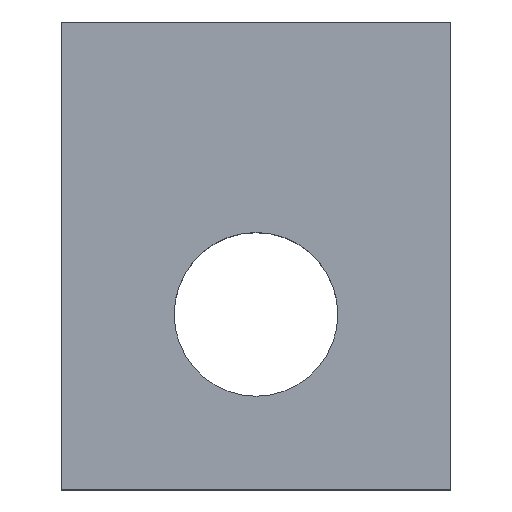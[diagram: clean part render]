
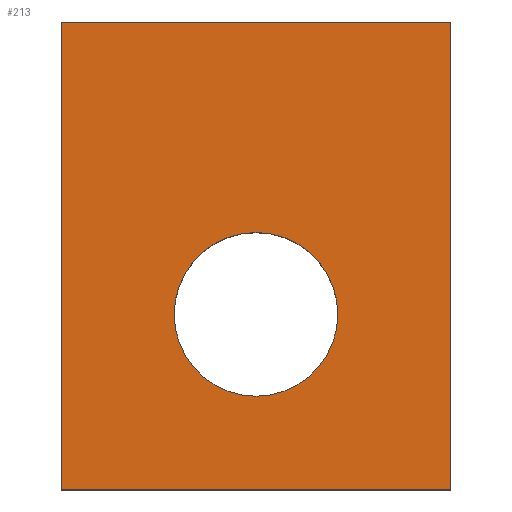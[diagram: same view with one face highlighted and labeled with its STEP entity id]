
A CAD part, top view. The second image highlights one B-rep face of the part: STEP entity #213.
In plain terms, the highlighted planar face has unit normal (0, 0, 1).
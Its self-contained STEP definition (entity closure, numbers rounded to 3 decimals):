
#24 = VERTEX_POINT('',#25);
#25 = CARTESIAN_POINT('',(-77.5,107.913,127.));
#32 = PLANE('',#33);
#33 = AXIS2_PLACEMENT_3D('',#34,#35,#36);
#34 = CARTESIAN_POINT('',(-77.5,107.913,119.));
#35 = DIRECTION('',(1.,0.,-0.));
#36 = DIRECTION('',(0.,0.,1.));
#44 = PLANE('',#45);
#45 = AXIS2_PLACEMENT_3D('',#46,#47,#48);
#46 = CARTESIAN_POINT('',(-77.5,107.913,119.));
#47 = DIRECTION('',(-0.,1.,0.));
#48 = DIRECTION('',(0.,0.,1.));
#85 = VERTEX_POINT('',#86);
#86 = CARTESIAN_POINT('',(-77.5,131.913,127.));
#100 = PLANE('',#101);
#101 = AXIS2_PLACEMENT_3D('',#102,#103,#104);
#102 = CARTESIAN_POINT('',(-77.5,131.913,119.));
#103 = DIRECTION('',(-0.,1.,0.));
#104 = DIRECTION('',(0.,0.,1.));
#112 = EDGE_CURVE('',#24,#85,#113,.T.);
#113 = SURFACE_CURVE('',#114,(#118,#125),.PCURVE_S1.);
#114 = LINE('',#115,#116);
#115 = CARTESIAN_POINT('',(-77.5,107.913,127.));
#116 = VECTOR('',#117,1.);
#117 = DIRECTION('',(-0.,1.,0.));
#118 = PCURVE('',#32,#119);
#119 = DEFINITIONAL_REPRESENTATION('',(#120),#124);
#120 = LINE('',#121,#122);
#121 = CARTESIAN_POINT('',(8.,0.));
#122 = VECTOR('',#123,1.);
#123 = DIRECTION('',(0.,-1.));
#124 = ( GEOMETRIC_REPRESENTATION_CONTEXT(2) 
PARAMETRIC_REPRESENTATION_CONTEXT() REPRESENTATION_CONTEXT('2D SPACE',''
  ) );
#125 = PCURVE('',#126,#131);
#126 = PLANE('',#127);
#127 = AXIS2_PLACEMENT_3D('',#128,#129,#130);
#128 = CARTESIAN_POINT('',(-77.5,107.913,127.));
#129 = DIRECTION('',(0.,0.,1.));
#130 = DIRECTION('',(1.,0.,-0.));
#131 = DEFINITIONAL_REPRESENTATION('',(#132),#136);
#132 = LINE('',#133,#134);
#133 = CARTESIAN_POINT('',(0.,0.));
#134 = VECTOR('',#135,1.);
#135 = DIRECTION('',(0.,1.));
#136 = ( GEOMETRIC_REPRESENTATION_CONTEXT(2) 
PARAMETRIC_REPRESENTATION_CONTEXT() REPRESENTATION_CONTEXT('2D SPACE',''
  ) );
#165 = EDGE_CURVE('',#24,#166,#168,.T.);
#166 = VERTEX_POINT('',#167);
#167 = CARTESIAN_POINT('',(-57.5,107.913,127.));
#168 = SURFACE_CURVE('',#169,(#173,#180),.PCURVE_S1.);
#169 = LINE('',#170,#171);
#170 = CARTESIAN_POINT('',(-77.5,107.913,127.));
#171 = VECTOR('',#172,1.);
#172 = DIRECTION('',(1.,0.,-0.));
#173 = PCURVE('',#44,#174);
#174 = DEFINITIONAL_REPRESENTATION('',(#175),#179);
#175 = LINE('',#176,#177);
#176 = CARTESIAN_POINT('',(8.,0.));
#177 = VECTOR('',#178,1.);
#178 = DIRECTION('',(0.,1.));
#179 = ( GEOMETRIC_REPRESENTATION_CONTEXT(2) 
PARAMETRIC_REPRESENTATION_CONTEXT() REPRESENTATION_CONTEXT('2D SPACE',''
  ) );
#180 = PCURVE('',#126,#181);
#181 = DEFINITIONAL_REPRESENTATION('',(#182),#186);
#182 = LINE('',#183,#184);
#183 = CARTESIAN_POINT('',(0.,0.));
#184 = VECTOR('',#185,1.);
#185 = DIRECTION('',(1.,0.));
#186 = ( GEOMETRIC_REPRESENTATION_CONTEXT(2) 
PARAMETRIC_REPRESENTATION_CONTEXT() REPRESENTATION_CONTEXT('2D SPACE',''
  ) );
#202 = PLANE('',#203);
#203 = AXIS2_PLACEMENT_3D('',#204,#205,#206);
#204 = CARTESIAN_POINT('',(-57.5,107.913,119.));
#205 = DIRECTION('',(1.,0.,-0.));
#206 = DIRECTION('',(0.,0.,1.));
#213 = ADVANCED_FACE('',(#214,#262),#126,.T.);
#214 = FACE_BOUND('',#215,.T.);
#215 = EDGE_LOOP('',(#216,#217,#218,#241));
#216 = ORIENTED_EDGE('',*,*,#112,.F.);
#217 = ORIENTED_EDGE('',*,*,#165,.T.);
#218 = ORIENTED_EDGE('',*,*,#219,.T.);
#219 = EDGE_CURVE('',#166,#220,#222,.T.);
#220 = VERTEX_POINT('',#221);
#221 = CARTESIAN_POINT('',(-57.5,131.913,127.));
#222 = SURFACE_CURVE('',#223,(#227,#234),.PCURVE_S1.);
#223 = LINE('',#224,#225);
#224 = CARTESIAN_POINT('',(-57.5,107.913,127.));
#225 = VECTOR('',#226,1.);
#226 = DIRECTION('',(-0.,1.,0.));
#227 = PCURVE('',#126,#228);
#228 = DEFINITIONAL_REPRESENTATION('',(#229),#233);
#229 = LINE('',#230,#231);
#230 = CARTESIAN_POINT('',(20.,0.));
#231 = VECTOR('',#232,1.);
#232 = DIRECTION('',(0.,1.));
#233 = ( GEOMETRIC_REPRESENTATION_CONTEXT(2) 
PARAMETRIC_REPRESENTATION_CONTEXT() REPRESENTATION_CONTEXT('2D SPACE',''
  ) );
#234 = PCURVE('',#202,#235);
#235 = DEFINITIONAL_REPRESENTATION('',(#236),#240);
#236 = LINE('',#237,#238);
#237 = CARTESIAN_POINT('',(8.,0.));
#238 = VECTOR('',#239,1.);
#239 = DIRECTION('',(0.,-1.));
#240 = ( GEOMETRIC_REPRESENTATION_CONTEXT(2) 
PARAMETRIC_REPRESENTATION_CONTEXT() REPRESENTATION_CONTEXT('2D SPACE',''
  ) );
#241 = ORIENTED_EDGE('',*,*,#242,.F.);
#242 = EDGE_CURVE('',#85,#220,#243,.T.);
#243 = SURFACE_CURVE('',#244,(#248,#255),.PCURVE_S1.);
#244 = LINE('',#245,#246);
#245 = CARTESIAN_POINT('',(-77.5,131.913,127.));
#246 = VECTOR('',#247,1.);
#247 = DIRECTION('',(1.,0.,-0.));
#248 = PCURVE('',#126,#249);
#249 = DEFINITIONAL_REPRESENTATION('',(#250),#254);
#250 = LINE('',#251,#252);
#251 = CARTESIAN_POINT('',(0.,24.));
#252 = VECTOR('',#253,1.);
#253 = DIRECTION('',(1.,0.));
#254 = ( GEOMETRIC_REPRESENTATION_CONTEXT(2) 
PARAMETRIC_REPRESENTATION_CONTEXT() REPRESENTATION_CONTEXT('2D SPACE',''
  ) );
#255 = PCURVE('',#100,#256);
#256 = DEFINITIONAL_REPRESENTATION('',(#257),#261);
#257 = LINE('',#258,#259);
#258 = CARTESIAN_POINT('',(8.,0.));
#259 = VECTOR('',#260,1.);
#260 = DIRECTION('',(0.,1.));
#261 = ( GEOMETRIC_REPRESENTATION_CONTEXT(2) 
PARAMETRIC_REPRESENTATION_CONTEXT() REPRESENTATION_CONTEXT('2D SPACE',''
  ) );
#262 = FACE_BOUND('',#263,.T.);
#263 = EDGE_LOOP('',(#264));
#264 = ORIENTED_EDGE('',*,*,#265,.F.);
#265 = EDGE_CURVE('',#266,#266,#268,.T.);
#266 = VERTEX_POINT('',#267);
#267 = CARTESIAN_POINT('',(-63.3,116.913,127.));
#268 = SURFACE_CURVE('',#269,(#274,#281),.PCURVE_S1.);
#269 = CIRCLE('',#270,4.2);
#270 = AXIS2_PLACEMENT_3D('',#271,#272,#273);
#271 = CARTESIAN_POINT('',(-67.5,116.913,127.));
#272 = DIRECTION('',(0.,0.,1.));
#273 = DIRECTION('',(1.,0.,-0.));
#274 = PCURVE('',#126,#275);
#275 = DEFINITIONAL_REPRESENTATION('',(#276),#280);
#276 = CIRCLE('',#277,4.2);
#277 = AXIS2_PLACEMENT_2D('',#278,#279);
#278 = CARTESIAN_POINT('',(10.,9.));
#279 = DIRECTION('',(1.,0.));
#280 = ( GEOMETRIC_REPRESENTATION_CONTEXT(2) 
PARAMETRIC_REPRESENTATION_CONTEXT() REPRESENTATION_CONTEXT('2D SPACE',''
  ) );
#281 = PCURVE('',#282,#287);
#282 = CYLINDRICAL_SURFACE('',#283,4.2);
#283 = AXIS2_PLACEMENT_3D('',#284,#285,#286);
#284 = CARTESIAN_POINT('',(-67.5,116.913,118.));
#285 = DIRECTION('',(0.,0.,1.));
#286 = DIRECTION('',(1.,0.,-0.));
#287 = DEFINITIONAL_REPRESENTATION('',(#288),#292);
#288 = LINE('',#289,#290);
#289 = CARTESIAN_POINT('',(0.,9.));
#290 = VECTOR('',#291,1.);
#291 = DIRECTION('',(1.,0.));
#292 = ( GEOMETRIC_REPRESENTATION_CONTEXT(2) 
PARAMETRIC_REPRESENTATION_CONTEXT() REPRESENTATION_CONTEXT('2D SPACE',''
  ) );
